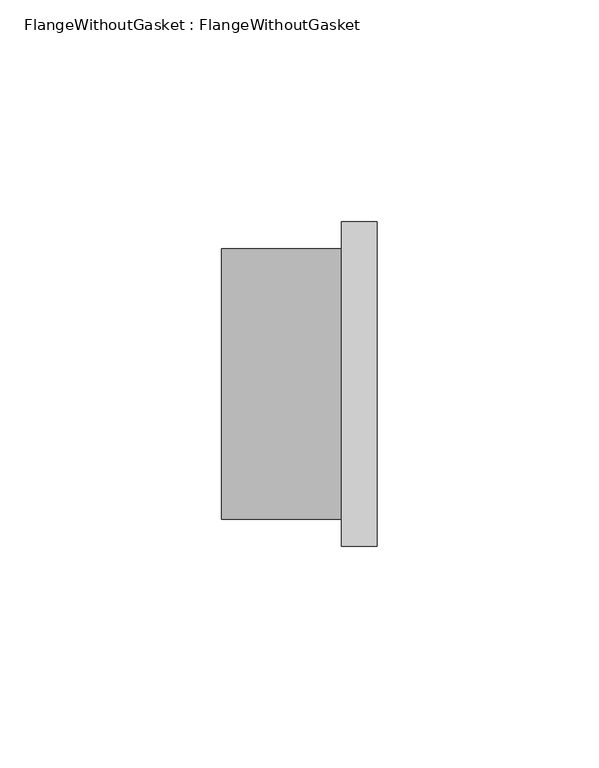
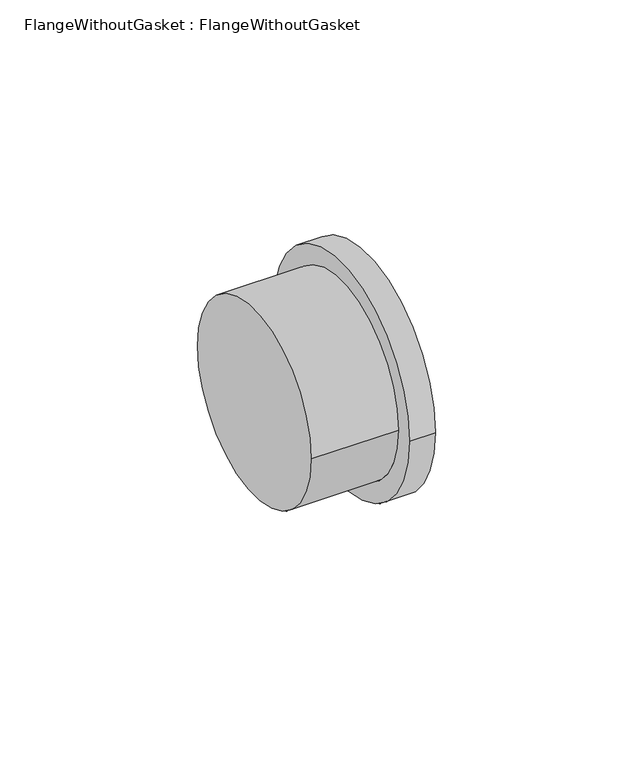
"""IFC4 building model written with IfcOpenShell, lengths in millimetres: pipe fitting geometry, FlangeWithoutGasket : FlangeWithoutGasket."""

from ifc_helpers import new_model, si_unit, frame, origin, place, context, project, spatial, circle_curve, source, transform, mapped, element, save
from ifc_brep_helpers import plane_surface, cylinder_surface, advanced_brep


def flangewithoutgasket_flangewithoutgasket_75658ef2(model_context):
    return source(origin(), model_context, "Body", "AdvancedBrep", [
        advanced_brep(
        [(17.5, 36.5, 0.0), (17.5, -36.5, 0.0), (9.5, 36.5, 0.0), (9.5, -36.5, 0.0), (9.5, 30.5, 0.0), (9.5, -30.5, 0.0), (-17.5, -30.5, 0.0), (-17.5, 30.5, 0.0)],
        [
            (0, 1, circle_curve(frame((17.5, 0.0, 0.0), z_axis=(1.0, 0.0, 0.0), x_axis=(0.0, -1.0, 0.0)), 36.5)),
            (1, 0, circle_curve(frame((17.5, 0.0, 0.0), z_axis=(1.0, 0.0, 0.0), x_axis=(0.0, -1.0, 0.0)), 36.5)),
            (2, 3, circle_curve(frame((9.5, 0.0, 0.0), z_axis=(-1.0, 0.0, 0.0), x_axis=(0.0, -1.0, 0.0)), 36.5)),
            (3, 2, circle_curve(frame((9.5, 0.0, 0.0), z_axis=(-1.0, 0.0, 0.0), x_axis=(0.0, -1.0, 0.0)), 36.5)),
            (4, 5, circle_curve(frame((9.5, 0.0, 0.0), z_axis=(1.0, 0.0, 0.0), x_axis=(0.0, 1.0, 0.0)), 30.5)),
            (5, 4, circle_curve(frame((9.5, 0.0, 0.0), z_axis=(1.0, 0.0, 0.0), x_axis=(0.0, 1.0, 0.0)), 30.5)),
            (0, 2),
            (3, 1),
            (6, 7, circle_curve(frame((-17.5, 0.0, 0.0), z_axis=(-1.0, 0.0, 0.0), x_axis=(0.0, 1.0, 0.0)), 30.5)),
            (7, 6, circle_curve(frame((-17.5, 0.0, 0.0), z_axis=(-1.0, 0.0, 0.0), x_axis=(0.0, 1.0, 0.0)), 30.5)),
            (6, 5),
            (4, 7),
        ],
        [
            plane_surface(frame((17.5, 0.0, 0.0), z_axis=(1.0, 0.0, 0.0), x_axis=(0.0, 0.0, 1.0))),
            plane_surface(frame((9.5, 0.0, 0.0), z_axis=(-1.0, 0.0, 0.0), x_axis=(0.0, 0.0, 1.0))),
            cylinder_surface(frame((17.5, 0.0, 0.0), z_axis=(1.0, 0.0, 0.0), x_axis=(0.0, -1.0, 0.0)), 36.5),
            plane_surface(frame((-17.5, 0.0, 0.0), z_axis=(-1.0, 0.0, 0.0), x_axis=(0.0, 0.0, 1.0))),
            cylinder_surface(frame((-17.5, 0.0, 0.0), z_axis=(-1.0, 0.0, 0.0), x_axis=(0.0, 1.0, 0.0)), 30.5),
        ],
        [
            (0, [[1, 2]]),
            (1, [[3, 4], [5, 6]]),
            (2, [[-1, 7, -4, 8]]),
            (2, [[-2, -8, -3, -7]]),
            (3, [[9, 10]]),
            (4, [[-9, 11, -5, 12]]),
            (4, [[-10, -12, -6, -11]]),
        ],
    ),
    ])


if __name__ == "__main__":
    model = new_model("IFC4")
    model_context = context("Model", 3, world=origin())
    ifc_project = project(units=[si_unit("LENGTHUNIT", "METRE", prefix="MILLI")], contexts=[model_context])
    site = spatial("IfcSite", under=ifc_project)
    building = spatial("IfcBuilding", under=site)
    placement = place(None, origin())
    flangewithoutgasket_flangewithoutgasket_shape = flangewithoutgasket_flangewithoutgasket_75658ef2(model_context)
    element("IfcPipeFitting", 1, ObjectType="FlangeWithoutGasket : FlangeWithoutGasket", at=placement, inside=building, context=model_context, shape_type="MappedRepresentation", body=[
        mapped(flangewithoutgasket_flangewithoutgasket_shape, transform((0.0, 0.0, 0.0), x_axis=(1.0, 0.0, 0.0), y_axis=(0.0, 1.0, 0.0), z_axis=(0.0, 0.0, 1.0))),
    ])
    save(model, "model.ifc")
